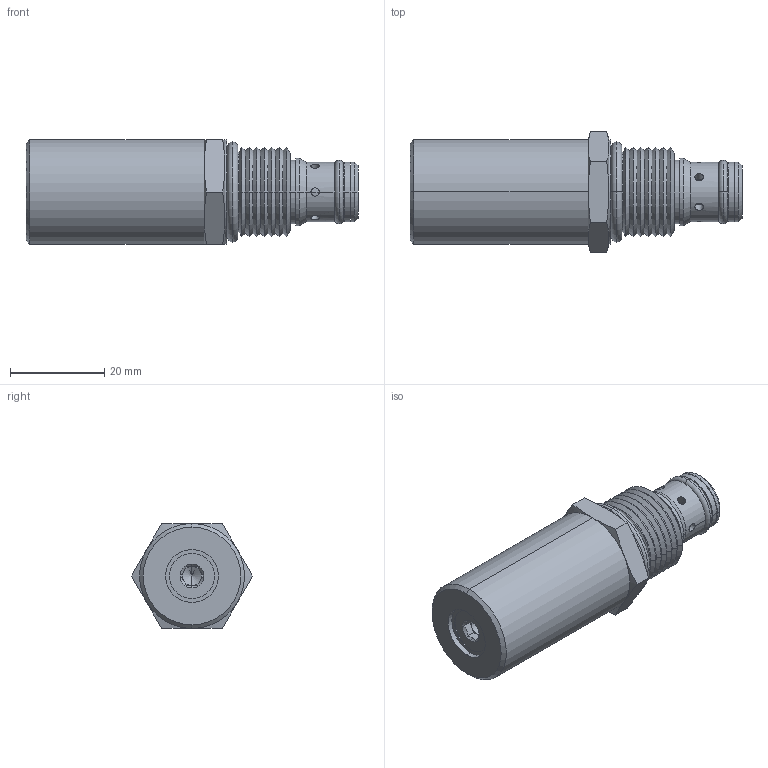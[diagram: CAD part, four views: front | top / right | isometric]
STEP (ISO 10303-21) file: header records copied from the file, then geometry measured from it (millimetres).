
FILE_DESCRIPTION((''),'2;1');
FILE_NAME('U:\Solid model CD\Solid model full\Mechanical\STEP\PBRWD0I-3D Full.stp','2008-07-29T09:54:43',('Dan'),(''),'Autodesk Inventor 9','Autodesk Inventor 9','');
FILE_SCHEMA(('AUTOMOTIVE_DESIGN { 1 0 10303 214 1 1 1 1 }'));
Length unit declared in the file: inch
Products named in the file (5): PBRWD0I-3D Full; PBRWD0I-3D Full1; PBRWD0I-3D Full2; PBRWD0I-3D Full3; PBRWD0I-3D Full4
Assembly tree (4 placements, depth 2):
  PBRWD0I-3D Full
    PBRWD0I-3D Full1
    PBRWD0I-3D Full2
    PBRWD0I-3D Full3
    PBRWD0I-3D Full4
Bounding box: 70.31 x 25.66 x 22.23 mm (x, y, z)
Volume: 21630 mm3; surface area: 6763 mm2
Topology: 4 solids, 4 shells, 141 faces, 320 edges, 189 vertices
Faces by surface type: cone 56, cylinder 48, plane 29, torus 8
Entity records: 4392 total; most frequent: CARTESIAN_POINT 1141, DIRECTION 686, ORIENTED_EDGE 636, EDGE_CURVE 318, AXIS2_PLACEMENT_3D 286, VERTEX_POINT 189, EDGE_LOOP 165, FACE_OUTER_BOUND 141
